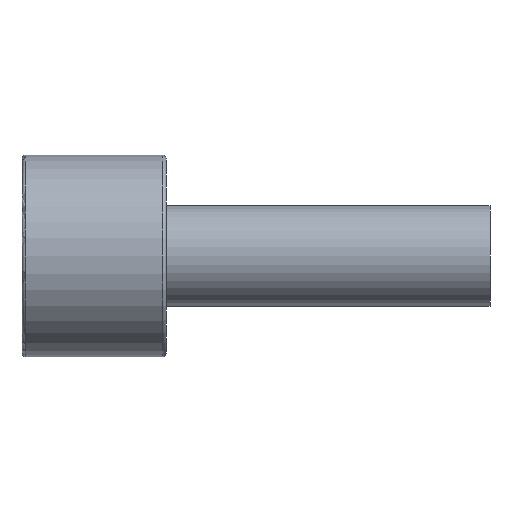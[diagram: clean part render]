
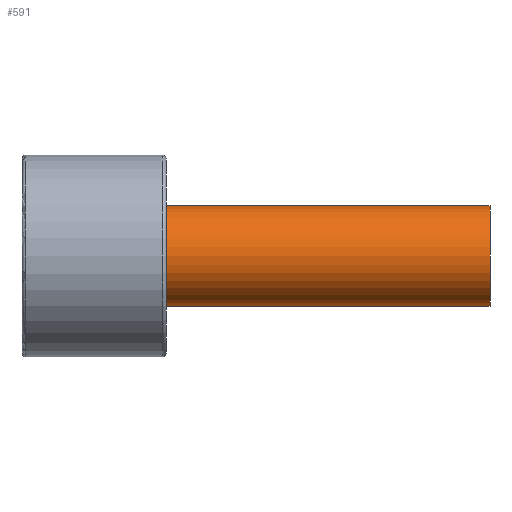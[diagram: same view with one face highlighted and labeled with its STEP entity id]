
A CAD part, front view. The second image highlights one B-rep face of the part: STEP entity #591.
In plain terms, the highlighted cylindrical face has radius 7 mm (diameter 14 mm), a partial arc.
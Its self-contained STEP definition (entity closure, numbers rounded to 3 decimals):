
#425=CARTESIAN_POINT('Vertex',(65.,0.,7.)) ;
#428=CARTESIAN_POINT('Axis2P3D Location',(65.,0.,0.)) ;
#432=CARTESIAN_POINT('Vertex',(65.,-7.,0.)) ;
#435=CARTESIAN_POINT('Axis2P3D Location',(65.,0.,0.)) ;
#439=CARTESIAN_POINT('Vertex',(65.,0.,-7.)) ;
#531=CARTESIAN_POINT('Line Origine',(65.,0.,7.)) ;
#535=CARTESIAN_POINT('Vertex',(20.,0.,7.)) ;
#538=CARTESIAN_POINT('Line Origine',(65.,0.,-7.)) ;
#542=CARTESIAN_POINT('Vertex',(20.,0.,-7.)) ;
#566=CARTESIAN_POINT('Axis2P3D Location',(65.,0.,0.)) ;
#571=CARTESIAN_POINT('Axis2P3D Location',(20.,0.,0.)) ;
#575=CARTESIAN_POINT('Vertex',(20.,-7.,0.)) ;
#578=CARTESIAN_POINT('Axis2P3D Location',(20.,0.,0.)) ;
#429=DIRECTION('Axis2P3D Direction',(1.,0.,-0.)) ;
#436=DIRECTION('Axis2P3D Direction',(1.,0.,-0.)) ;
#532=DIRECTION('Vector Direction',(-1.,0.,0.)) ;
#539=DIRECTION('Vector Direction',(-1.,0.,0.)) ;
#567=DIRECTION('Axis2P3D Direction',(-1.,-0.,-0.)) ;
#568=DIRECTION('Axis2P3D XDirection',(0.,0.,-1.)) ;
#572=DIRECTION('Axis2P3D Direction',(-1.,-0.,-0.)) ;
#579=DIRECTION('Axis2P3D Direction',(-1.,-0.,-0.)) ;
#430=AXIS2_PLACEMENT_3D('Circle Axis2P3D',#428,#429,$) ;
#437=AXIS2_PLACEMENT_3D('Circle Axis2P3D',#435,#436,$) ;
#569=AXIS2_PLACEMENT_3D('Cylinder Axis2P3D',#566,#567,#568) ;
#573=AXIS2_PLACEMENT_3D('Circle Axis2P3D',#571,#572,$) ;
#580=AXIS2_PLACEMENT_3D('Circle Axis2P3D',#578,#579,$) ;
#584=ORIENTED_EDGE('',*,*,#544,.T.) ;
#585=ORIENTED_EDGE('',*,*,#441,.F.) ;
#586=ORIENTED_EDGE('',*,*,#434,.F.) ;
#587=ORIENTED_EDGE('',*,*,#537,.T.) ;
#588=ORIENTED_EDGE('',*,*,#577,.T.) ;
#589=ORIENTED_EDGE('',*,*,#582,.T.) ;
#533=VECTOR('Line Direction',#532,1.) ;
#540=VECTOR('Line Direction',#539,1.) ;
#591=ADVANCED_FACE('367-14X65',(#590),#570,.T.) ;
#431=CIRCLE('generated circle',#430,7.) ;
#438=CIRCLE('generated circle',#437,7.) ;
#574=CIRCLE('generated circle',#573,7.) ;
#581=CIRCLE('generated circle',#580,7.) ;
#570=CYLINDRICAL_SURFACE('generated cylinder',#569,7.) ;
#434=EDGE_CURVE('',#426,#433,#431,.T.) ;
#441=EDGE_CURVE('',#433,#440,#438,.T.) ;
#537=EDGE_CURVE('',#426,#536,#534,.T.) ;
#544=EDGE_CURVE('',#543,#440,#541,.F.) ;
#577=EDGE_CURVE('',#536,#576,#574,.F.) ;
#582=EDGE_CURVE('',#576,#543,#581,.F.) ;
#583=EDGE_LOOP('',(#584,#585,#586,#587,#588,#589)) ;
#590=FACE_OUTER_BOUND('',#583,.T.) ;
#534=LINE('Line',#531,#533) ;
#541=LINE('Line',#538,#540) ;
#426=VERTEX_POINT('',#425) ;
#433=VERTEX_POINT('',#432) ;
#440=VERTEX_POINT('',#439) ;
#536=VERTEX_POINT('',#535) ;
#543=VERTEX_POINT('',#542) ;
#576=VERTEX_POINT('',#575) ;
